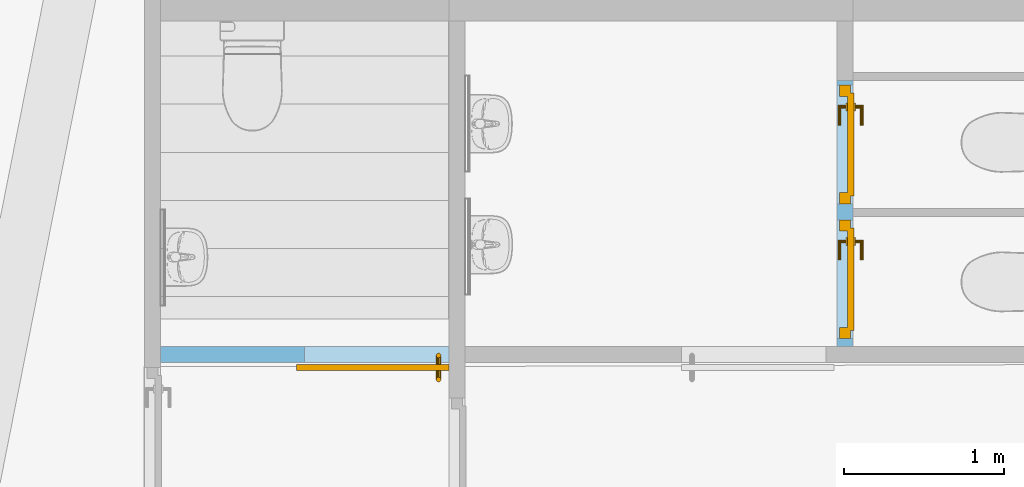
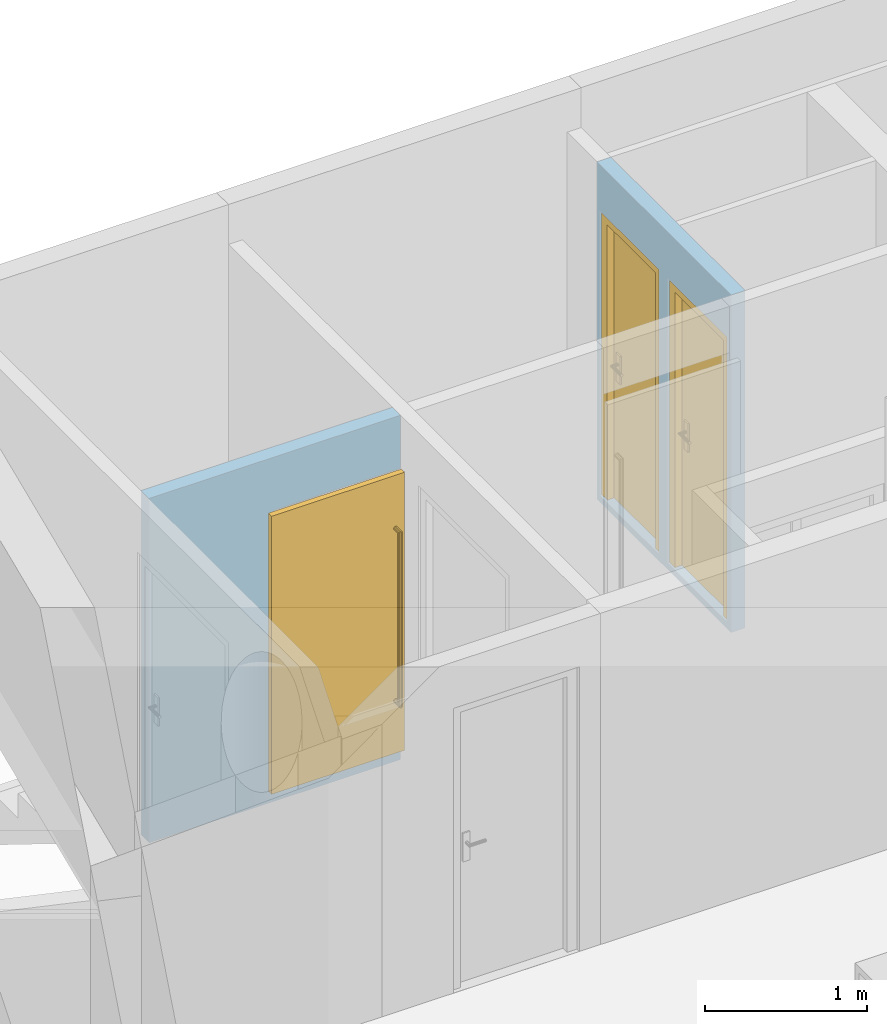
"""IFC4 building model written with IfcOpenShell, lengths in metres."""

from ifc_helpers import new_model, entity, si_unit, converted_unit, derived_unit, frame, frame_2d, origin, origin_with_axes, place, context, subcontext, project, spatial, polyline, rectangle, outline, extrude, faceted_brep, source, transform, mapped, material, layer, layer_set, layer_usage, element, fill, save


model = new_model("IFC4")

# Units and contexts
model_context = context("Model", 3, precision=1e-05, world=origin())
body_context = subcontext(model_context, "Body", "Model", "MODEL_VIEW")
ifc_project = project(units=[si_unit("LENGTHUNIT", "METRE"), si_unit("AREAUNIT", "SQUARE_METRE"), si_unit("VOLUMEUNIT", "CUBIC_METRE"), si_unit("MASSUNIT", "GRAM", prefix="KILO"), converted_unit("PLANEANGLEUNIT", "DEGREE", entity("IfcPlaneAngleMeasure", 0.0174532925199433), si_unit("PLANEANGLEUNIT", "RADIAN"), dimensions=[0, 0, 0, 0, 0, 0, 0]), derived_unit("THERMALTRANSMITTANCEUNIT", [(si_unit("POWERUNIT", "WATT"), 1), (si_unit("THERMODYNAMICTEMPERATUREUNIT", "KELVIN"), -1), (si_unit("LENGTHUNIT", "METRE"), -2)]), derived_unit("VOLUMETRICFLOWRATEUNIT", [(si_unit("LENGTHUNIT", "METRE"), 3), (converted_unit("TIMEUNIT", "hour", entity("IfcTimeMeasure", 3600.0), si_unit("TIMEUNIT", "SECOND"), dimensions=[0, 0, 1, 0, 0, 0, 0]), -1), (si_unit("LENGTHUNIT", "METRE"), -1)])], contexts=[model_context])

# Building, storeys
building_placement = place(None, origin())
building = spatial("IfcBuilding", under=ifc_project, at=building_placement, Name="HABITATGE PLURIFAMILIAR", CompositionType="ELEMENT")
storey_1_placement = place(building_placement, frame((0.0, 0.0, 3.35)))
storey_1 = spatial("IfcBuildingStorey", under=building, at=storey_1_placement, Name="PLANTA  ALTELL", CompositionType="ELEMENT", Elevation=3.35)
storey_2_placement = place(storey_1_placement, origin())
storey_2 = spatial("IfcBuildingStorey", under=storey_1, at=storey_2_placement, Name="NOU", CompositionType="PARTIAL")

# Wall, openings, doors
ifc_material_1 = material()
ifc_layer_1 = layer(ifc_material_1, 0.1)
ifc_layer_set_1 = layer_set([ifc_layer_1])
ifc_layer_usage_1 = layer_usage(ifc_layer_set_1, "AXIS2", "POSITIVE", 0.0)
wall_1_placement = place(storey_2_placement, frame((405.775867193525, 26.0491362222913, -0.05), z_axis=(0.0, 0.0, 1.0), x_axis=(0.0, 1.0, 0.0)))
wall_1 = element("IfcWall", 1, at=wall_1_placement, inside=storey_2, material=ifc_layer_usage_1, Name="Evans PA", context=body_context, shape_type="SweptSolid", body=[
    extrude(rectangle(XDim=1.66045527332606, YDim=0.1, at=frame_2d((0.830227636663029, 0.05), x_axis=(1.0, 0.0))), origin_with_axes(), (0.0, 0.0, 1.0), 2.55),
])
opening_1_placement = place(wall_1_placement, frame((1.63031102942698, 0.1, 0.05), z_axis=(0.0, -1.0, 0.0), x_axis=(0.0, 0.0, 1.0)))
opening_1 = element("IfcOpeningElement", 2, at=opening_1_placement, cuts=wall_1, Name="Vano de puerta PA", ObjectType="Opening", context=body_context, shape_type="SweptSolid", body=[
    extrude(outline(polyline([(2.15, 0.74), (2.15, 0.0), (0.0, 0.0), (0.0, 0.74), (2.15, 0.74)])), origin_with_axes(), (0.0, 0.0, 1.0), 0.1),
])
opening_2_placement = place(wall_1_placement, frame((0.790389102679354, 0.1, 0.05), z_axis=(0.0, -1.0, 0.0), x_axis=(0.0, 0.0, 1.0)))
opening_2 = element("IfcOpeningElement", 3, at=opening_2_placement, cuts=wall_1, Name="Vano de puerta PA", ObjectType="Opening", context=body_context, shape_type="SweptSolid", body=[
    extrude(outline(polyline([(2.15, 0.74), (2.15, 0.0), (0.0, 0.0), (0.0, 0.74), (2.15, 0.74)])), origin_with_axes(), (0.0, 0.0, 1.0), 0.1),
])
shared_shape_1 = source(origin_with_axes(), body_context, "Body", "Brep", [
    faceted_brep([(0.0, 0.0699999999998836, 2.15), (0.0, 0.0699999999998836, 0.0), (0.0700000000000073, 0.0699999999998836, 0.0), (0.0700000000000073, 0.0699999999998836, 2.15), (0.0, 0.0, 0.0), (0.0, 0.0, 2.15), (0.0700000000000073, 0.0, 2.15), (0.0700000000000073, 0.0, 0.0)], [[[0, 1, 2, 3]], [[4, 5, 6, 7]], [[1, 0, 5, 4]], [[2, 1, 4, 7]], [[3, 2, 7, 6]], [[0, 3, 6, 5]]], orient=[[False], [False], [False], [False], [False], [False]]),
    faceted_brep([(0.670000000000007, 0.0699999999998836, 2.15), (0.670000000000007, 0.0699999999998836, 0.0), (0.740000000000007, 0.0699999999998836, 0.0), (0.740000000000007, 0.0699999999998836, 2.15), (0.670000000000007, 0.0, 0.0), (0.670000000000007, 0.0, 2.15), (0.740000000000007, 0.0, 2.15), (0.740000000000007, 0.0, 0.0)], [[[0, 1, 2, 3]], [[4, 5, 6, 7]], [[1, 0, 5, 4]], [[2, 1, 4, 7]], [[3, 2, 7, 6]], [[0, 3, 6, 5]]], orient=[[False], [False], [False], [False], [False], [False]]),
    faceted_brep([(0.0700000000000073, 0.0699999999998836, 2.15), (0.0700000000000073, 0.0699999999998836, 2.08), (0.670000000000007, 0.0699999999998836, 2.08), (0.670000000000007, 0.0699999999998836, 2.15), (0.0700000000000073, 0.0, 2.08), (0.0700000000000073, 0.0, 2.15), (0.670000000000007, 0.0, 2.15), (0.670000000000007, 0.0, 2.08)], [[[0, 1, 2, 3]], [[4, 5, 6, 7]], [[1, 0, 5, 4]], [[2, 1, 4, 7]], [[3, 2, 7, 6]], [[0, 3, 6, 5]]], orient=[[False], [False], [False], [False], [False], [False]]),
    faceted_brep([(0.0500000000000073, 0.0899999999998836, 2.1), (0.0500000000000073, 0.0899999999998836, 0.0), (0.690000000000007, 0.0899999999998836, 0.0), (0.690000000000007, 0.0899999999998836, 2.1), (0.0500000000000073, 0.0499999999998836, 0.0), (0.0500000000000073, 0.0499999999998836, 2.1), (0.690000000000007, 0.0499999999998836, 2.1), (0.690000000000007, 0.0499999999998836, 0.0)], [[[0, 1, 2, 3]], [[4, 5, 6, 7]], [[1, 0, 5, 4]], [[2, 1, 4, 7]], [[3, 2, 7, 6]], [[0, 3, 6, 5]]], orient=[[False], [False], [False], [False], [False], [False]]),
    faceted_brep([(0.110000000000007, 0.0499999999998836, 1.125), (0.110000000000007, 0.0499999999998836, 0.91), (0.160000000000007, 0.0499999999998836, 0.91), (0.160000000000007, 0.0499999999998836, 1.125), (0.110000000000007, 0.0399999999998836, 0.91), (0.110000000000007, 0.0399999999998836, 1.125), (0.160000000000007, 0.0399999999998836, 1.125), (0.160000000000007, 0.0399999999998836, 0.91)], [[[0, 1, 2, 3]], [[4, 5, 6, 7]], [[1, 0, 5, 4]], [[2, 1, 4, 7]], [[3, 2, 7, 6]], [[0, 3, 6, 5]]], orient=[[False], [False], [False], [False], [False], [False]]),
    faceted_brep([(0.135000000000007, 0.0399999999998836, 1.06), (0.130000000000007, 0.0399999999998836, 1.05866025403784), (0.126339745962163, 0.0399999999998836, 1.055), (0.125000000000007, 0.0399999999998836, 1.05), (0.126339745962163, 0.0399999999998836, 1.045), (0.130000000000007, 0.0399999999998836, 1.04133974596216), (0.135000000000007, 0.0399999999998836, 1.04), (0.140000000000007, 0.0399999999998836, 1.04133974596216), (0.143660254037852, 0.0399999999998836, 1.045), (0.145000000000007, 0.0399999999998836, 1.05), (0.143660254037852, 0.0399999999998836, 1.055), (0.140000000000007, 0.0399999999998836, 1.05866025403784), (0.135000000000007, 0.0, 1.06), (0.130000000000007, -0.00500000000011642, 1.05866025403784), (0.126339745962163, -0.00866025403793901, 1.055), (0.125000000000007, -0.0100000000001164, 1.05), (0.126339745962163, -0.00866025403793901, 1.045), (0.130000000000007, -0.00500000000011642, 1.04133974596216), (0.135000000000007, 0.0, 1.04), (0.140000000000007, 0.00499999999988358, 1.04133974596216), (0.143660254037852, 0.00866025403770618, 1.045), (0.145000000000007, 0.00999999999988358, 1.05), (0.143660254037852, 0.00866025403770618, 1.055), (0.140000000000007, 0.00499999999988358, 1.05866025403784), (0.250000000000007, 0.0, 1.06), (0.250000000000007, 0.00499999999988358, 1.05866025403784), (0.250000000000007, 0.00866025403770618, 1.055), (0.250000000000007, 0.00999999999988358, 1.05), (0.250000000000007, 0.00866025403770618, 1.045), (0.250000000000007, 0.00499999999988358, 1.04133974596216), (0.250000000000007, 0.0, 1.04), (0.250000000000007, -0.00500000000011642, 1.04133974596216), (0.250000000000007, -0.00866025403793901, 1.045), (0.250000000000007, -0.0100000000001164, 1.05), (0.250000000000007, -0.00866025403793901, 1.055), (0.250000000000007, -0.00500000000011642, 1.05866025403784)], [[[0, 1, 2, 3, 4, 5, 6, 7, 8, 9, 10, 11]], [[0, 12, 13, 1]], [[1, 13, 14, 2]], [[2, 14, 15, 3]], [[3, 15, 16, 4]], [[4, 16, 17, 5]], [[5, 17, 18, 6]], [[6, 18, 19, 7]], [[7, 19, 20, 8]], [[8, 20, 21, 9]], [[9, 21, 22, 10]], [[10, 22, 23, 11]], [[11, 23, 12, 0]], [[24, 25, 26, 27, 28, 29, 30, 31, 32, 33, 34, 35]], [[12, 24, 35, 13]], [[13, 35, 34, 14]], [[14, 34, 33, 15]], [[15, 33, 32, 16]], [[16, 32, 31, 17]], [[17, 31, 30, 18]], [[18, 30, 29, 19]], [[19, 29, 28, 20]], [[20, 28, 27, 21]], [[21, 27, 26, 22]], [[22, 26, 25, 23]], [[23, 25, 24, 12]]], orient=[[False], [False], [False], [False], [False], [False], [False], [False], [False], [False], [False], [False], [False], [False], [False], [False], [False], [False], [False], [False], [False], [False], [False], [False], [False], [False]]),
    faceted_brep([(0.110000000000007, 0.0899999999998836, 1.125), (0.160000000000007, 0.0899999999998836, 1.125), (0.160000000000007, 0.0899999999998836, 0.91), (0.110000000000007, 0.0899999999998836, 0.91), (0.110000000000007, 0.0999999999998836, 0.91), (0.160000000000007, 0.0999999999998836, 0.91), (0.160000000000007, 0.0999999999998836, 1.125), (0.110000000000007, 0.0999999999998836, 1.125)], [[[0, 1, 2, 3]], [[4, 5, 6, 7]], [[3, 4, 7, 0]], [[2, 5, 4, 3]], [[1, 6, 5, 2]], [[0, 7, 6, 1]]], orient=[[False], [False], [False], [False], [False], [False]]),
    faceted_brep([(0.135000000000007, 0.0999999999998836, 1.06), (0.140000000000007, 0.0999999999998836, 1.05866025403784), (0.143660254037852, 0.0999999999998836, 1.055), (0.145000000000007, 0.0999999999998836, 1.05), (0.143660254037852, 0.0999999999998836, 1.045), (0.140000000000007, 0.0999999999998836, 1.04133974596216), (0.135000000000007, 0.0999999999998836, 1.04), (0.130000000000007, 0.0999999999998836, 1.04133974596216), (0.126339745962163, 0.0999999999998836, 1.045), (0.125000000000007, 0.0999999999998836, 1.05), (0.126339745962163, 0.0999999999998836, 1.055), (0.130000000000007, 0.0999999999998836, 1.05866025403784), (0.130000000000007, 0.144999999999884, 1.05866025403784), (0.135000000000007, 0.139999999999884, 1.06), (0.126339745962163, 0.148660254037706, 1.055), (0.125000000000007, 0.149999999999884, 1.05), (0.126339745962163, 0.148660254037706, 1.045), (0.130000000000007, 0.144999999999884, 1.04133974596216), (0.135000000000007, 0.139999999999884, 1.04), (0.140000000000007, 0.134999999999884, 1.04133974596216), (0.143660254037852, 0.131339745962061, 1.045), (0.145000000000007, 0.129999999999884, 1.05), (0.143660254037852, 0.131339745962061, 1.055), (0.140000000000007, 0.134999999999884, 1.05866025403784), (0.250000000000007, 0.139999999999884, 1.06), (0.250000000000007, 0.144999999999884, 1.05866025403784), (0.250000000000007, 0.148660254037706, 1.055), (0.250000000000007, 0.149999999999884, 1.05), (0.250000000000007, 0.148660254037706, 1.045), (0.250000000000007, 0.144999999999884, 1.04133974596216), (0.250000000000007, 0.139999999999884, 1.04), (0.250000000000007, 0.134999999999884, 1.04133974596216), (0.250000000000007, 0.131339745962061, 1.045), (0.250000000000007, 0.129999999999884, 1.05), (0.250000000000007, 0.131339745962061, 1.055), (0.250000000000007, 0.134999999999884, 1.05866025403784)], [[[0, 1, 2, 3, 4, 5, 6, 7, 8, 9, 10, 11]], [[0, 11, 12, 13]], [[11, 10, 14, 12]], [[10, 9, 15, 14]], [[9, 8, 16, 15]], [[8, 7, 17, 16]], [[7, 6, 18, 17]], [[6, 5, 19, 18]], [[5, 4, 20, 19]], [[4, 3, 21, 20]], [[3, 2, 22, 21]], [[2, 1, 23, 22]], [[1, 0, 13, 23]], [[24, 25, 26, 27, 28, 29, 30, 31, 32, 33, 34, 35]], [[13, 12, 25, 24]], [[12, 14, 26, 25]], [[14, 15, 27, 26]], [[15, 16, 28, 27]], [[16, 17, 29, 28]], [[17, 18, 30, 29]], [[18, 19, 31, 30]], [[19, 20, 32, 31]], [[20, 21, 33, 32]], [[21, 22, 34, 33]], [[22, 23, 35, 34]], [[23, 13, 24, 35]]], orient=[[False], [False], [False], [False], [False], [False], [False], [False], [False], [False], [False], [False], [False], [False], [False], [False], [False], [False], [False], [False], [False], [False], [False], [False], [False], [False]]),
])
door_1_placement = place(opening_1_placement, frame((0.0, 0.0, 0.015), z_axis=(1.0, 0.0, 0.0), x_axis=(0.0, 1.0, 0.0)))
door_1 = element("IfcDoor", 4, at=door_1_placement, inside=storey_2, Name="Porta PA", OperationType="USERDEFINED", OverallHeight=2.15, OverallWidth=0.74, PredefinedType="DOOR", context=body_context, shape_type="MappedRepresentation", body=[
    mapped(shared_shape_1, transform((0.0, 0.0, 0.0), x_axis=(1.0, 0.0, 0.0), y_axis=(0.0, 1.0, 0.0), z_axis=(0.0, 0.0, 1.0), scale=1.0)),
])
fill(opening_1, door_1)
shared_shape_2 = source(origin_with_axes(), body_context, "Body", "Brep", [
    faceted_brep([(0.0, 0.0699999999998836, 2.15), (0.0, 0.0699999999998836, 0.0), (0.0700000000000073, 0.0699999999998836, 0.0), (0.0700000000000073, 0.0699999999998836, 2.15), (0.0, 0.0, 0.0), (0.0, 0.0, 2.15), (0.0700000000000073, 0.0, 2.15), (0.0700000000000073, 0.0, 0.0)], [[[0, 1, 2, 3]], [[4, 5, 6, 7]], [[1, 0, 5, 4]], [[2, 1, 4, 7]], [[3, 2, 7, 6]], [[0, 3, 6, 5]]], orient=[[False], [False], [False], [False], [False], [False]]),
    faceted_brep([(0.670000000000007, 0.0699999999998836, 2.15), (0.670000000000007, 0.0699999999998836, 0.0), (0.740000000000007, 0.0699999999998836, 0.0), (0.740000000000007, 0.0699999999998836, 2.15), (0.670000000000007, 0.0, 0.0), (0.670000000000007, 0.0, 2.15), (0.740000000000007, 0.0, 2.15), (0.740000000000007, 0.0, 0.0)], [[[0, 1, 2, 3]], [[4, 5, 6, 7]], [[1, 0, 5, 4]], [[2, 1, 4, 7]], [[3, 2, 7, 6]], [[0, 3, 6, 5]]], orient=[[False], [False], [False], [False], [False], [False]]),
    faceted_brep([(0.0700000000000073, 0.0699999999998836, 2.15), (0.0700000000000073, 0.0699999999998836, 2.08), (0.670000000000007, 0.0699999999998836, 2.08), (0.670000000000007, 0.0699999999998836, 2.15), (0.0700000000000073, 0.0, 2.08), (0.0700000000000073, 0.0, 2.15), (0.670000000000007, 0.0, 2.15), (0.670000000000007, 0.0, 2.08)], [[[0, 1, 2, 3]], [[4, 5, 6, 7]], [[1, 0, 5, 4]], [[2, 1, 4, 7]], [[3, 2, 7, 6]], [[0, 3, 6, 5]]], orient=[[False], [False], [False], [False], [False], [False]]),
    faceted_brep([(0.0500000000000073, 0.0899999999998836, 2.1), (0.0500000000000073, 0.0899999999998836, 0.0), (0.690000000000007, 0.0899999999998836, 0.0), (0.690000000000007, 0.0899999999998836, 2.1), (0.0500000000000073, 0.0499999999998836, 0.0), (0.0500000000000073, 0.0499999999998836, 2.1), (0.690000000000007, 0.0499999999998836, 2.1), (0.690000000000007, 0.0499999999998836, 0.0)], [[[0, 1, 2, 3]], [[4, 5, 6, 7]], [[1, 0, 5, 4]], [[2, 1, 4, 7]], [[3, 2, 7, 6]], [[0, 3, 6, 5]]], orient=[[False], [False], [False], [False], [False], [False]]),
    faceted_brep([(0.110000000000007, 0.0499999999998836, 1.125), (0.110000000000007, 0.0499999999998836, 0.91), (0.160000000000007, 0.0499999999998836, 0.91), (0.160000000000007, 0.0499999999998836, 1.125), (0.110000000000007, 0.0399999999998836, 0.91), (0.110000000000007, 0.0399999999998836, 1.125), (0.160000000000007, 0.0399999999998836, 1.125), (0.160000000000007, 0.0399999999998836, 0.91)], [[[0, 1, 2, 3]], [[4, 5, 6, 7]], [[1, 0, 5, 4]], [[2, 1, 4, 7]], [[3, 2, 7, 6]], [[0, 3, 6, 5]]], orient=[[False], [False], [False], [False], [False], [False]]),
    faceted_brep([(0.135000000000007, 0.0399999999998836, 1.06), (0.130000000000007, 0.0399999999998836, 1.05866025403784), (0.126339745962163, 0.0399999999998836, 1.055), (0.125000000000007, 0.0399999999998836, 1.05), (0.126339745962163, 0.0399999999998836, 1.045), (0.130000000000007, 0.0399999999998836, 1.04133974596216), (0.135000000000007, 0.0399999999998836, 1.04), (0.140000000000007, 0.0399999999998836, 1.04133974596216), (0.143660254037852, 0.0399999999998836, 1.045), (0.145000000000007, 0.0399999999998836, 1.05), (0.143660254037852, 0.0399999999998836, 1.055), (0.140000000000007, 0.0399999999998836, 1.05866025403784), (0.135000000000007, 0.0, 1.06), (0.130000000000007, -0.00500000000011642, 1.05866025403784), (0.126339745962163, -0.00866025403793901, 1.055), (0.125000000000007, -0.0100000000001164, 1.05), (0.126339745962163, -0.00866025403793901, 1.045), (0.130000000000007, -0.00500000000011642, 1.04133974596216), (0.135000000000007, 0.0, 1.04), (0.140000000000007, 0.00499999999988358, 1.04133974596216), (0.143660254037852, 0.00866025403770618, 1.045), (0.145000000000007, 0.00999999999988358, 1.05), (0.143660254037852, 0.00866025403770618, 1.055), (0.140000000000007, 0.00499999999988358, 1.05866025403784), (0.250000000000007, 0.0, 1.06), (0.250000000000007, 0.00499999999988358, 1.05866025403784), (0.250000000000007, 0.00866025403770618, 1.055), (0.250000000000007, 0.00999999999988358, 1.05), (0.250000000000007, 0.00866025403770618, 1.045), (0.250000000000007, 0.00499999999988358, 1.04133974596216), (0.250000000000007, 0.0, 1.04), (0.250000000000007, -0.00500000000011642, 1.04133974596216), (0.250000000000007, -0.00866025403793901, 1.045), (0.250000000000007, -0.0100000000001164, 1.05), (0.250000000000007, -0.00866025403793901, 1.055), (0.250000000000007, -0.00500000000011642, 1.05866025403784)], [[[0, 1, 2, 3, 4, 5, 6, 7, 8, 9, 10, 11]], [[0, 12, 13, 1]], [[1, 13, 14, 2]], [[2, 14, 15, 3]], [[3, 15, 16, 4]], [[4, 16, 17, 5]], [[5, 17, 18, 6]], [[6, 18, 19, 7]], [[7, 19, 20, 8]], [[8, 20, 21, 9]], [[9, 21, 22, 10]], [[10, 22, 23, 11]], [[11, 23, 12, 0]], [[24, 25, 26, 27, 28, 29, 30, 31, 32, 33, 34, 35]], [[12, 24, 35, 13]], [[13, 35, 34, 14]], [[14, 34, 33, 15]], [[15, 33, 32, 16]], [[16, 32, 31, 17]], [[17, 31, 30, 18]], [[18, 30, 29, 19]], [[19, 29, 28, 20]], [[20, 28, 27, 21]], [[21, 27, 26, 22]], [[22, 26, 25, 23]], [[23, 25, 24, 12]]], orient=[[False], [False], [False], [False], [False], [False], [False], [False], [False], [False], [False], [False], [False], [False], [False], [False], [False], [False], [False], [False], [False], [False], [False], [False], [False], [False]]),
    faceted_brep([(0.110000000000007, 0.0899999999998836, 1.125), (0.160000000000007, 0.0899999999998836, 1.125), (0.160000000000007, 0.0899999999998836, 0.91), (0.110000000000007, 0.0899999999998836, 0.91), (0.110000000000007, 0.0999999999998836, 0.91), (0.160000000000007, 0.0999999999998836, 0.91), (0.160000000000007, 0.0999999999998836, 1.125), (0.110000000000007, 0.0999999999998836, 1.125)], [[[0, 1, 2, 3]], [[4, 5, 6, 7]], [[3, 4, 7, 0]], [[2, 5, 4, 3]], [[1, 6, 5, 2]], [[0, 7, 6, 1]]], orient=[[False], [False], [False], [False], [False], [False]]),
    faceted_brep([(0.135000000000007, 0.0999999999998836, 1.06), (0.140000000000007, 0.0999999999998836, 1.05866025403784), (0.143660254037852, 0.0999999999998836, 1.055), (0.145000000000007, 0.0999999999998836, 1.05), (0.143660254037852, 0.0999999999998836, 1.045), (0.140000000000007, 0.0999999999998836, 1.04133974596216), (0.135000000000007, 0.0999999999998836, 1.04), (0.130000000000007, 0.0999999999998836, 1.04133974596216), (0.126339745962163, 0.0999999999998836, 1.045), (0.125000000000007, 0.0999999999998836, 1.05), (0.126339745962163, 0.0999999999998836, 1.055), (0.130000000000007, 0.0999999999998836, 1.05866025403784), (0.130000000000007, 0.144999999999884, 1.05866025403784), (0.135000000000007, 0.139999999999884, 1.06), (0.126339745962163, 0.148660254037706, 1.055), (0.125000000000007, 0.149999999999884, 1.05), (0.126339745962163, 0.148660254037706, 1.045), (0.130000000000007, 0.144999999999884, 1.04133974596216), (0.135000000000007, 0.139999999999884, 1.04), (0.140000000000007, 0.134999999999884, 1.04133974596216), (0.143660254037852, 0.131339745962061, 1.045), (0.145000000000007, 0.129999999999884, 1.05), (0.143660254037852, 0.131339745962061, 1.055), (0.140000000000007, 0.134999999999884, 1.05866025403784), (0.250000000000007, 0.139999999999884, 1.06), (0.250000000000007, 0.144999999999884, 1.05866025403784), (0.250000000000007, 0.148660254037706, 1.055), (0.250000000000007, 0.149999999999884, 1.05), (0.250000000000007, 0.148660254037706, 1.045), (0.250000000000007, 0.144999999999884, 1.04133974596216), (0.250000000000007, 0.139999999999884, 1.04), (0.250000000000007, 0.134999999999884, 1.04133974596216), (0.250000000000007, 0.131339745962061, 1.045), (0.250000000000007, 0.129999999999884, 1.05), (0.250000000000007, 0.131339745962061, 1.055), (0.250000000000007, 0.134999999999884, 1.05866025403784)], [[[0, 1, 2, 3, 4, 5, 6, 7, 8, 9, 10, 11]], [[0, 11, 12, 13]], [[11, 10, 14, 12]], [[10, 9, 15, 14]], [[9, 8, 16, 15]], [[8, 7, 17, 16]], [[7, 6, 18, 17]], [[6, 5, 19, 18]], [[5, 4, 20, 19]], [[4, 3, 21, 20]], [[3, 2, 22, 21]], [[2, 1, 23, 22]], [[1, 0, 13, 23]], [[24, 25, 26, 27, 28, 29, 30, 31, 32, 33, 34, 35]], [[13, 12, 25, 24]], [[12, 14, 26, 25]], [[14, 15, 27, 26]], [[15, 16, 28, 27]], [[16, 17, 29, 28]], [[17, 18, 30, 29]], [[18, 19, 31, 30]], [[19, 20, 32, 31]], [[20, 21, 33, 32]], [[21, 22, 34, 33]], [[22, 23, 35, 34]], [[23, 13, 24, 35]]], orient=[[False], [False], [False], [False], [False], [False], [False], [False], [False], [False], [False], [False], [False], [False], [False], [False], [False], [False], [False], [False], [False], [False], [False], [False], [False], [False]]),
])
door_2_placement = place(opening_2_placement, frame((0.0, 0.0, 0.015), z_axis=(1.0, 0.0, 0.0), x_axis=(0.0, 1.0, 0.0)))
door_2 = element("IfcDoor", 5, at=door_2_placement, inside=storey_2, Name="Porta PA", OperationType="USERDEFINED", OverallHeight=2.15, OverallWidth=0.74, PredefinedType="DOOR", context=body_context, shape_type="MappedRepresentation", body=[
    mapped(shared_shape_2, transform((0.0, 0.0, 0.0), x_axis=(1.0, 0.0, 0.0), y_axis=(0.0, 1.0, 0.0), z_axis=(0.0, 0.0, 1.0), scale=1.0)),
])
fill(opening_2, door_2)

# Wall, opening, door
ifc_material_2 = material()
ifc_layer_2 = layer(ifc_material_2, 0.1)
ifc_layer_set_2 = layer_set([ifc_layer_2])
ifc_layer_usage_2 = layer_usage(ifc_layer_set_2, "AXIS2", "POSITIVE", 0.0)
wall_2_placement = place(storey_2_placement, frame((401.458743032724, 25.9491362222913, -0.1)))
wall_2 = element("IfcWall", 6, at=wall_2_placement, inside=storey_2, material=ifc_layer_usage_2, Name="Evans PA", context=body_context, shape_type="SweptSolid", body=[
    extrude(rectangle(XDim=1.79839908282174, YDim=0.1, at=frame_2d((0.899199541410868, 0.05), x_axis=(1.0, 0.0))), origin_with_axes(), (0.0, 0.0, 1.0), 2.6),
])
opening_3_placement = place(wall_2_placement, frame((1.79839908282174, 0.1, 0.1), z_axis=(0.0, -1.0, 0.0), x_axis=(0.0, 0.0, 1.0)))
opening_3 = element("IfcOpeningElement", 7, at=opening_3_placement, cuts=wall_2, Name="Vano de puerta PA", ObjectType="Opening", context=body_context, shape_type="SweptSolid", body=[
    extrude(outline(polyline([(2.1, 0.9), (2.1, 0.0), (0.0, 0.0), (0.0, 0.9), (2.1, 0.9)])), origin_with_axes(), (0.0, 0.0, 1.0), 0.1),
])
shared_shape_3 = source(origin_with_axes(), body_context, "Body", "Brep", [
    faceted_brep([(0.0, 0.15, 2.1), (0.0, 0.15, 0.0), (0.95, 0.15, 0.0), (0.95, 0.15, 2.1), (0.0, 0.11, 0.0), (0.0, 0.11, 2.1), (0.95, 0.11, 2.1), (0.95, 0.11, 0.0)], [[[0, 1, 2, 3]], [[4, 5, 6, 7]], [[1, 0, 5, 4]], [[2, 1, 4, 7]], [[3, 2, 7, 6]], [[0, 3, 6, 5]]], orient=[[False], [False], [False], [False], [False], [False]]),
    faceted_brep([(0.08, 0.11, 1.7), (0.0779903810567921, 0.11, 1.7075), (0.0725, 0.11, 1.71299038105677), (0.065, 0.11, 1.715), (0.0575, 0.11, 1.71299038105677), (0.0520096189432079, 0.11, 1.7075), (0.05, 0.11, 1.7), (0.0520096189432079, 0.11, 1.6925), (0.0575, 0.11, 1.68700961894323), (0.065, 0.11, 1.685), (0.0725, 0.11, 1.68700961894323), (0.0779903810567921, 0.11, 1.6925), (0.08, 0.055, 1.7), (0.0779903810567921, 0.0475, 1.7075), (0.0725, 0.0420096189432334, 1.71299038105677), (0.065, 0.04, 1.715), (0.0575, 0.0420096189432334, 1.71299038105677), (0.0520096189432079, 0.0475, 1.7075), (0.05, 0.055, 1.7), (0.0520096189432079, 0.0625, 1.6925), (0.0575, 0.0679903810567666, 1.68700961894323), (0.065, 0.07, 1.685), (0.0725, 0.0679903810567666, 1.68700961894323), (0.0779903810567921, 0.0625, 1.6925), (0.08, 0.055, 0.4), (0.0779903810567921, 0.0475, 0.3925), (0.0725, 0.0420096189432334, 0.387009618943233), (0.065, 0.04, 0.385), (0.0575, 0.0420096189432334, 0.387009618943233), (0.0520096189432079, 0.0475, 0.3925), (0.05, 0.055, 0.4), (0.0520096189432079, 0.0625, 0.4075), (0.0575, 0.0679903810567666, 0.412990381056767), (0.065, 0.07, 0.415), (0.0725, 0.0679903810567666, 0.412990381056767), (0.0779903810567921, 0.0625, 0.4075), (0.08, 0.11, 0.4), (0.0779903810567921, 0.11, 0.4075), (0.0725, 0.11, 0.412990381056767), (0.065, 0.11, 0.415), (0.0575, 0.11, 0.412990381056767), (0.0520096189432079, 0.11, 0.4075), (0.05, 0.11, 0.4), (0.0520096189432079, 0.11, 0.3925), (0.0575, 0.11, 0.387009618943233), (0.065, 0.11, 0.385), (0.0725, 0.11, 0.387009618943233), (0.0779903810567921, 0.11, 0.3925)], [[[0, 1, 2, 3, 4, 5, 6, 7, 8, 9, 10, 11]], [[0, 12, 13, 1]], [[1, 13, 14, 2]], [[2, 14, 15, 3]], [[3, 15, 16, 4]], [[4, 16, 17, 5]], [[5, 17, 18, 6]], [[6, 18, 19, 7]], [[7, 19, 20, 8]], [[8, 20, 21, 9]], [[9, 21, 22, 10]], [[10, 22, 23, 11]], [[11, 23, 12, 0]], [[12, 24, 25, 13]], [[13, 25, 26, 14]], [[14, 26, 27, 15]], [[15, 27, 28, 16]], [[16, 28, 29, 17]], [[17, 29, 30, 18]], [[18, 30, 31, 19]], [[19, 31, 32, 20]], [[20, 32, 33, 21]], [[21, 33, 34, 22]], [[22, 34, 35, 23]], [[23, 35, 24, 12]], [[36, 37, 38, 39, 40, 41, 42, 43, 44, 45, 46, 47]], [[24, 36, 47, 25]], [[25, 47, 46, 26]], [[26, 46, 45, 27]], [[27, 45, 44, 28]], [[28, 44, 43, 29]], [[29, 43, 42, 30]], [[30, 42, 41, 31]], [[31, 41, 40, 32]], [[32, 40, 39, 33]], [[33, 39, 38, 34]], [[34, 38, 37, 35]], [[35, 37, 36, 24]]], orient=[[False], [False], [False], [False], [False], [False], [False], [False], [False], [False], [False], [False], [False], [False], [False], [False], [False], [False], [False], [False], [False], [False], [False], [False], [False], [False], [False], [False], [False], [False], [False], [False], [False], [False], [False], [False], [False], [False]]),
    faceted_brep([(0.08, 0.15, 1.7), (0.0779903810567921, 0.15, 1.6925), (0.0725, 0.15, 1.68700961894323), (0.065, 0.15, 1.685), (0.0575, 0.15, 1.68700961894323), (0.0520096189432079, 0.15, 1.6925), (0.05, 0.15, 1.7), (0.0520096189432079, 0.15, 1.7075), (0.0575, 0.15, 1.71299038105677), (0.065, 0.15, 1.715), (0.0725, 0.15, 1.71299038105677), (0.0779903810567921, 0.15, 1.7075), (0.0779903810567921, 0.2125, 1.7075), (0.08, 0.205, 1.7), (0.0725, 0.217990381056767, 1.71299038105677), (0.065, 0.22, 1.715), (0.0575, 0.217990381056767, 1.71299038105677), (0.0520096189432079, 0.2125, 1.7075), (0.05, 0.205, 1.7), (0.0520096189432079, 0.1975, 1.6925), (0.0575, 0.192009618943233, 1.68700961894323), (0.065, 0.19, 1.685), (0.0725, 0.192009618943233, 1.68700961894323), (0.0779903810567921, 0.1975, 1.6925), (0.0779903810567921, 0.2125, 0.3925), (0.08, 0.205, 0.4), (0.0725, 0.217990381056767, 0.387009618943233), (0.065, 0.22, 0.385), (0.0575, 0.217990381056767, 0.387009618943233), (0.0520096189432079, 0.2125, 0.3925), (0.05, 0.205, 0.4), (0.0520096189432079, 0.1975, 0.4075), (0.0575, 0.192009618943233, 0.412990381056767), (0.065, 0.19, 0.415), (0.0725, 0.192009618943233, 0.412990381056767), (0.0779903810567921, 0.1975, 0.4075), (0.08, 0.15, 0.4), (0.0779903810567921, 0.15, 0.3925), (0.0725, 0.15, 0.387009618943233), (0.065, 0.15, 0.385), (0.0575, 0.15, 0.387009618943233), (0.0520096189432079, 0.15, 0.3925), (0.05, 0.15, 0.4), (0.0520096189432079, 0.15, 0.4075), (0.0575, 0.15, 0.412990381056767), (0.065, 0.15, 0.415), (0.0725, 0.15, 0.412990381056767), (0.0779903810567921, 0.15, 0.4075)], [[[0, 1, 2, 3, 4, 5, 6, 7, 8, 9, 10, 11]], [[0, 11, 12, 13]], [[11, 10, 14, 12]], [[10, 9, 15, 14]], [[9, 8, 16, 15]], [[8, 7, 17, 16]], [[7, 6, 18, 17]], [[6, 5, 19, 18]], [[5, 4, 20, 19]], [[4, 3, 21, 20]], [[3, 2, 22, 21]], [[2, 1, 23, 22]], [[1, 0, 13, 23]], [[13, 12, 24, 25]], [[12, 14, 26, 24]], [[14, 15, 27, 26]], [[15, 16, 28, 27]], [[16, 17, 29, 28]], [[17, 18, 30, 29]], [[18, 19, 31, 30]], [[19, 20, 32, 31]], [[20, 21, 33, 32]], [[21, 22, 34, 33]], [[22, 23, 35, 34]], [[23, 13, 25, 35]], [[36, 37, 38, 39, 40, 41, 42, 43, 44, 45, 46, 47]], [[25, 24, 37, 36]], [[24, 26, 38, 37]], [[26, 27, 39, 38]], [[27, 28, 40, 39]], [[28, 29, 41, 40]], [[29, 30, 42, 41]], [[30, 31, 43, 42]], [[31, 32, 44, 43]], [[32, 33, 45, 44]], [[33, 34, 46, 45]], [[34, 35, 47, 46]], [[35, 25, 36, 47]]], orient=[[False], [False], [False], [False], [False], [False], [False], [False], [False], [False], [False], [False], [False], [False], [False], [False], [False], [False], [False], [False], [False], [False], [False], [False], [False], [False], [False], [False], [False], [False], [False], [False], [False], [False], [False], [False], [False], [False]]),
])
door_3_placement = place(opening_3_placement, frame((0.0, 0.0, 0.0), z_axis=(1.0, 0.0, 0.0), x_axis=(0.0, 1.0, 0.0)))
door_3 = element("IfcDoor", 8, at=door_3_placement, inside=storey_2, Name="Porta PA", OperationType="USERDEFINED", OverallHeight=2.1, OverallWidth=0.9, PredefinedType="DOOR", context=body_context, shape_type="MappedRepresentation", body=[
    mapped(shared_shape_3, transform((0.0, 0.0, 0.0), x_axis=(1.0, 0.0, 0.0), y_axis=(0.0, 1.0, 0.0), z_axis=(0.0, 0.0, 1.0), scale=1.0)),
])
fill(opening_3, door_3)

save(model, "model.ifc")
